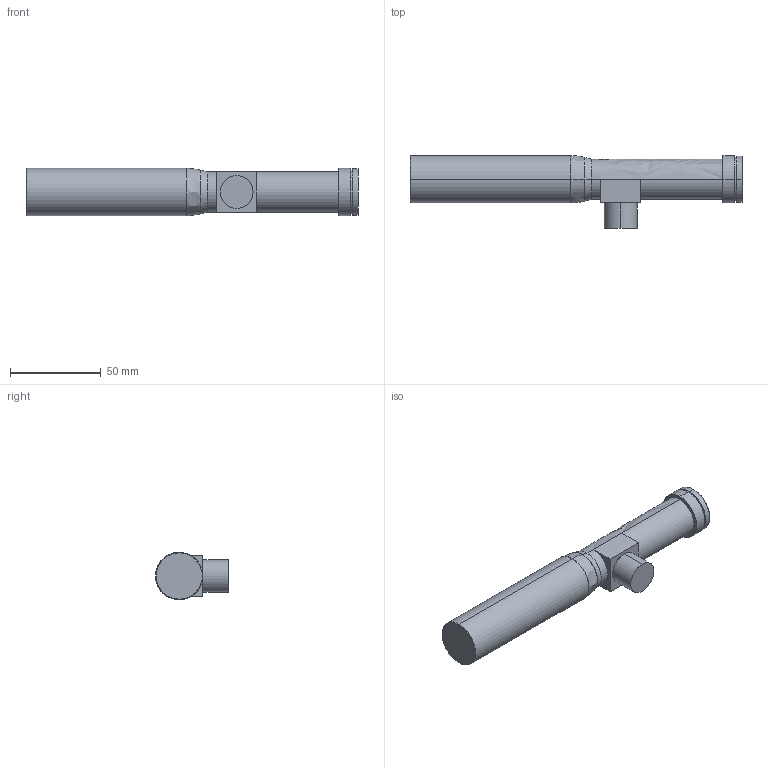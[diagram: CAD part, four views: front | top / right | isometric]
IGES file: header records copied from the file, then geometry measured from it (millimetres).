
Start section: SolidWorks IGES file using analytic representation for surfaces
Global section: file name: C:\Users\Administrator\Desktop\WWH10-510CT\WWH10-510CT.IGS; native system: SolidWorks 2017; preprocessor: SolidWorks 2017; author: Administrator; date: 191119.093628; units: millimetre
Bounding box: 182.5 x 40 x 26 mm (x, y, z)
Surface area: 16510.3 mm2 (no closed solid volume)
Topology: 0 solids, 0 shells, 30 faces, 450 edges, 450 vertices
Faces by surface type: revolution 17, bspline 13
